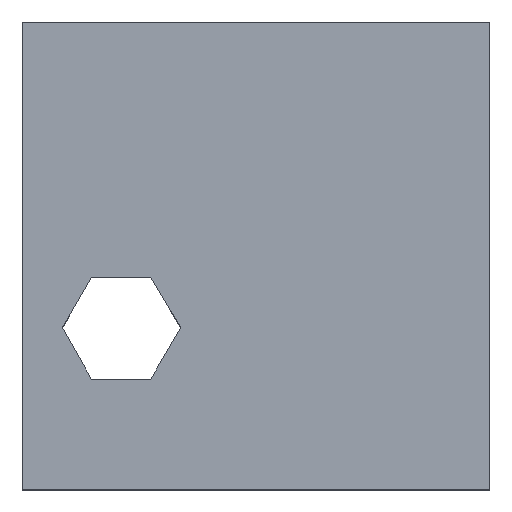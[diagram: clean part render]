
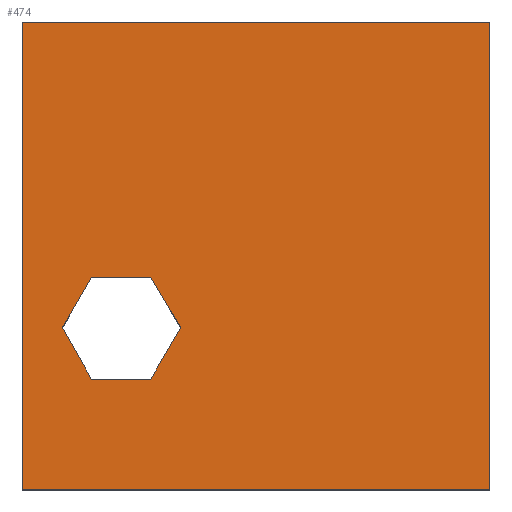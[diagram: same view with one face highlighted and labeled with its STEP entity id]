
A CAD part, top view. The second image highlights one B-rep face of the part: STEP entity #474.
In plain terms, the highlighted planar face has unit normal (0, 0, 1).
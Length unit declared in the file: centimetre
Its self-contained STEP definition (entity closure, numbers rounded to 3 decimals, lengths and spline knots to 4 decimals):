
#7 = VERTEX_POINT ( 'NONE', #759 ) ;
#11 = EDGE_CURVE ( 'NONE', #428, #7, #114, .T. ) ;
#18 = VERTEX_POINT ( 'NONE', #111 ) ;
#27 = ORIENTED_EDGE ( 'NONE', *, *, #390, .T. ) ;
#34 = EDGE_CURVE ( 'NONE', #7, #399, #178, .T. ) ;
#50 = CARTESIAN_POINT ( 'NONE',  ( 0., 0., 1000. ) ) ;
#76 = DIRECTION ( 'NONE',  ( 1., 0., 0. ) ) ;
#85 = CARTESIAN_POINT ( 'NONE',  ( 147.9466, 454.1893, 1000. ) ) ;
#92 = VECTOR ( 'NONE', #704, 100. ) ;
#93 = LINE ( 'NONE', #182, #238 ) ;
#96 = FACE_OUTER_BOUND ( 'NONE', #213, .T. ) ;
#98 = LINE ( 'NONE', #542, #205 ) ;
#100 = DIRECTION ( 'NONE',  ( 0., 0., 1. ) ) ;
#102 = DIRECTION ( 'NONE',  ( -1., 0., 0. ) ) ;
#106 = ORIENTED_EDGE ( 'NONE', *, *, #362, .T. ) ;
#111 = CARTESIAN_POINT ( 'NONE',  ( 339.2041, 346.3112, 1000. ) ) ;
#114 = LINE ( 'NONE', #352, #300 ) ;
#129 = VECTOR ( 'NONE', #102, 100. ) ;
#141 = DIRECTION ( 'NONE',  ( 0., -1., 0. ) ) ;
#143 = ORIENTED_EDGE ( 'NONE', *, *, #236, .T. ) ;
#145 = CARTESIAN_POINT ( 'NONE',  ( 274.7171, 454.1893, 1000. ) ) ;
#146 = FACE_BOUND ( 'NONE', #552, .T. ) ;
#151 = PLANE ( 'NONE',  #394 ) ;
#162 = CARTESIAN_POINT ( 'NONE',  ( 339.2041, 346.3112, 1000. ) ) ;
#178 = LINE ( 'NONE', #703, #92 ) ;
#182 = CARTESIAN_POINT ( 'NONE',  ( 0., 1000., 1000. ) ) ;
#205 = VECTOR ( 'NONE', #76, 100. ) ;
#213 = EDGE_LOOP ( 'NONE', ( #501, #636, #762, #143 ) ) ;
#214 = CARTESIAN_POINT ( 'NONE',  ( 274.7171, 454.1893, 1000. ) ) ;
#217 = CARTESIAN_POINT ( 'NONE',  ( 274.7171, 235.8887, 1000. ) ) ;
#224 = CARTESIAN_POINT ( 'NONE',  ( 85.6632, 346.3112, 1000. ) ) ;
#228 = VERTEX_POINT ( 'NONE', #476 ) ;
#236 = EDGE_CURVE ( 'NONE', #399, #228, #93, .T. ) ;
#238 = VECTOR ( 'NONE', #549, 100. ) ;
#260 = VECTOR ( 'NONE', #341, 100. ) ;
#275 = CARTESIAN_POINT ( 'NONE',  ( 147.9466, 235.8887, 1000. ) ) ;
#282 = VERTEX_POINT ( 'NONE', #717 ) ;
#294 = DIRECTION ( 'NONE',  ( 1., 0., 0. ) ) ;
#298 = EDGE_CURVE ( 'NONE', #677, #384, #625, .T. ) ;
#300 = VECTOR ( 'NONE', #294, 100. ) ;
#311 = VERTEX_POINT ( 'NONE', #214 ) ;
#315 = VECTOR ( 'NONE', #688, 100. ) ;
#341 = DIRECTION ( 'NONE',  ( 0.513, -0.858, 0. ) ) ;
#349 = LINE ( 'NONE', #217, #129 ) ;
#351 = VECTOR ( 'NONE', #141, 100. ) ;
#352 = CARTESIAN_POINT ( 'NONE',  ( 0., 0., 1000. ) ) ;
#360 = ORIENTED_EDGE ( 'NONE', *, *, #693, .T. ) ;
#362 = EDGE_CURVE ( 'NONE', #628, #311, #98, .T. ) ;
#374 = ORIENTED_EDGE ( 'NONE', *, *, #584, .T. ) ;
#376 = VECTOR ( 'NONE', #507, 100. ) ;
#384 = VERTEX_POINT ( 'NONE', #520 ) ;
#388 = ORIENTED_EDGE ( 'NONE', *, *, #593, .T. ) ;
#390 = EDGE_CURVE ( 'NONE', #282, #677, #349, .T. ) ;
#392 = DIRECTION ( 'NONE',  ( 1., 0., 0. ) ) ;
#394 = AXIS2_PLACEMENT_3D ( 'NONE', #50, #100, #392 ) ;
#399 = VERTEX_POINT ( 'NONE', #750 ) ;
#428 = VERTEX_POINT ( 'NONE', #598 ) ;
#439 = LINE ( 'NONE', #145, #260 ) ;
#440 = LINE ( 'NONE', #162, #315 ) ;
#474 = ADVANCED_FACE ( 'NONE', ( #146, #96 ), #151, .T. ) ;
#476 = CARTESIAN_POINT ( 'NONE',  ( 0., 1000., 1000. ) ) ;
#482 = CARTESIAN_POINT ( 'NONE',  ( 147.9466, 235.8887, 1000. ) ) ;
#483 = VECTOR ( 'NONE', #734, 100. ) ;
#495 = CARTESIAN_POINT ( 'NONE',  ( 0., 1000., 1000. ) ) ;
#501 = ORIENTED_EDGE ( 'NONE', *, *, #641, .T. ) ;
#507 = DIRECTION ( 'NONE',  ( -0.491, 0.871, 0. ) ) ;
#520 = CARTESIAN_POINT ( 'NONE',  ( 85.6632, 346.3112, 1000. ) ) ;
#542 = CARTESIAN_POINT ( 'NONE',  ( 147.9466, 454.1893, 1000. ) ) ;
#549 = DIRECTION ( 'NONE',  ( -1., 0., 0. ) ) ;
#552 = EDGE_LOOP ( 'NONE', ( #388, #106, #360, #374, #27, #721 ) ) ;
#584 = EDGE_CURVE ( 'NONE', #18, #282, #440, .T. ) ;
#593 = EDGE_CURVE ( 'NONE', #384, #628, #740, .T. ) ;
#598 = CARTESIAN_POINT ( 'NONE',  ( 0., 0., 1000. ) ) ;
#625 = LINE ( 'NONE', #275, #376 ) ;
#628 = VERTEX_POINT ( 'NONE', #85 ) ;
#636 = ORIENTED_EDGE ( 'NONE', *, *, #11, .T. ) ;
#641 = EDGE_CURVE ( 'NONE', #228, #428, #659, .T. ) ;
#659 = LINE ( 'NONE', #495, #351 ) ;
#677 = VERTEX_POINT ( 'NONE', #482 ) ;
#688 = DIRECTION ( 'NONE',  ( -0.504, -0.864, 0. ) ) ;
#693 = EDGE_CURVE ( 'NONE', #311, #18, #439, .T. ) ;
#703 = CARTESIAN_POINT ( 'NONE',  ( 1000., 1000., 1000. ) ) ;
#704 = DIRECTION ( 'NONE',  ( 0., 1., 0. ) ) ;
#717 = CARTESIAN_POINT ( 'NONE',  ( 274.7171, 235.8887, 1000. ) ) ;
#721 = ORIENTED_EDGE ( 'NONE', *, *, #298, .T. ) ;
#734 = DIRECTION ( 'NONE',  ( 0.5, 0.866, 0. ) ) ;
#740 = LINE ( 'NONE', #224, #483 ) ;
#750 = CARTESIAN_POINT ( 'NONE',  ( 1000., 1000., 1000. ) ) ;
#759 = CARTESIAN_POINT ( 'NONE',  ( 1000., 0., 1000. ) ) ;
#762 = ORIENTED_EDGE ( 'NONE', *, *, #34, .T. ) ;
